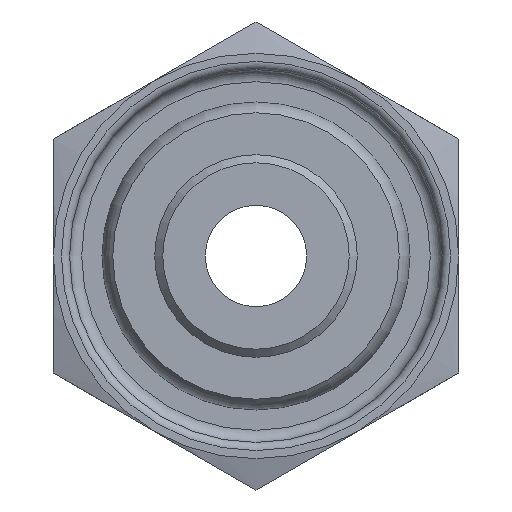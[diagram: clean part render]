
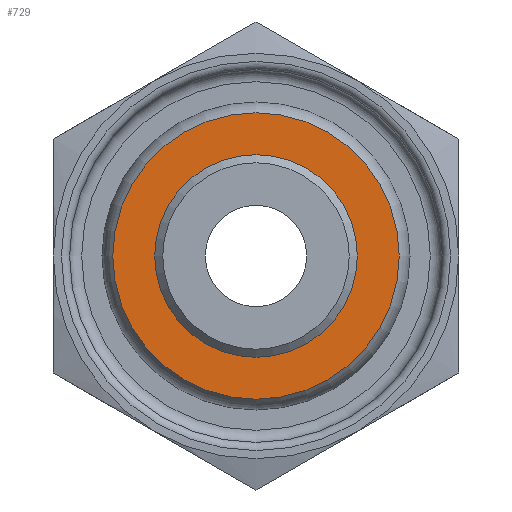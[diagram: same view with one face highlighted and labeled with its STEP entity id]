
A CAD part, front view. The second image highlights one B-rep face of the part: STEP entity #729.
In plain terms, the highlighted planar face has unit normal (0, -1, 0) as drawn and (1, 0, 0) by its records, which use the part's own axes.
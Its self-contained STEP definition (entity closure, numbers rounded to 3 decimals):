
#79=FACE_BOUND('',#212,.T.);
#96=PLANE('',#909);
#152=FACE_OUTER_BOUND('',#211,.T.);
#211=EDGE_LOOP('',(#668));
#212=EDGE_LOOP('',(#669));
#304=CIRCLE('',#903,2.267);
#306=CIRCLE('',#907,3.533);
#367=VERTEX_POINT('',#1410);
#369=VERTEX_POINT('',#1417);
#466=EDGE_CURVE('',#367,#367,#304,.T.);
#468=EDGE_CURVE('',#369,#369,#306,.T.);
#668=ORIENTED_EDGE('',*,*,#468,.T.);
#669=ORIENTED_EDGE('',*,*,#466,.F.);
#729=ADVANCED_FACE('',(#152,#79),#96,.T.);
#903=AXIS2_PLACEMENT_3D('',#1412,#1138,#1139);
#907=AXIS2_PLACEMENT_3D('',#1418,#1146,#1147);
#909=AXIS2_PLACEMENT_3D('',#1420,#1150,#1151);
#1138=DIRECTION('center_axis',(1.,0.,0.));
#1139=DIRECTION('ref_axis',(0.,1.,0.));
#1146=DIRECTION('center_axis',(1.,0.,0.));
#1147=DIRECTION('ref_axis',(0.,1.,0.));
#1150=DIRECTION('center_axis',(1.,0.,0.));
#1151=DIRECTION('ref_axis',(0.,0.,-1.));
#1410=CARTESIAN_POINT('',(0.,0.,2.267));
#1412=CARTESIAN_POINT('Origin',(0.,0.,0.));
#1417=CARTESIAN_POINT('',(0.,0.,3.533));
#1418=CARTESIAN_POINT('Origin',(0.,0.,0.));
#1420=CARTESIAN_POINT('Origin',(0.,2.584,0.));
